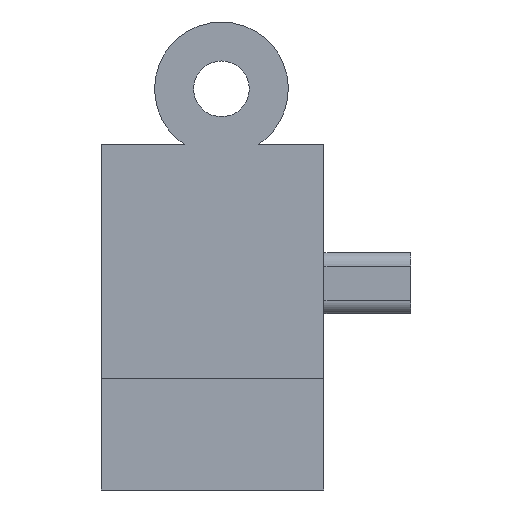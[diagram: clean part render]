
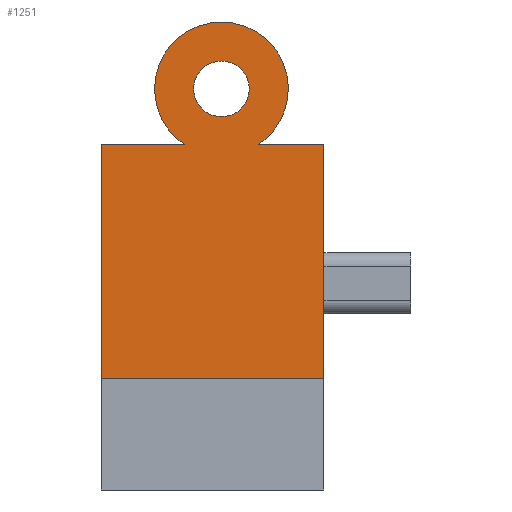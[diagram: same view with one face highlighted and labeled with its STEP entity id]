
A CAD part, left-side view. The second image highlights one B-rep face of the part: STEP entity #1251.
In plain terms, the highlighted planar face has unit normal (-1, 0, 0).
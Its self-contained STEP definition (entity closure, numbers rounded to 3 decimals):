
#143 = VERTEX_POINT('',#144);
#144 = CARTESIAN_POINT('',(-36.,137.8,279.));
#150 = EDGE_CURVE('',#151,#143,#153,.T.);
#151 = VERTEX_POINT('',#152);
#152 = CARTESIAN_POINT('',(-36.,137.8,258.));
#153 = LINE('',#154,#155);
#154 = CARTESIAN_POINT('',(-36.,137.8,248.));
#155 = VECTOR('',#156,1.);
#156 = DIRECTION('',(0.,0.,1.));
#382 = EDGE_CURVE('',#143,#383,#385,.T.);
#383 = VERTEX_POINT('',#384);
#384 = CARTESIAN_POINT('',(-36.,143.683,279.));
#385 = LINE('',#386,#387);
#386 = CARTESIAN_POINT('',(-36.,137.8,279.));
#387 = VECTOR('',#388,1.);
#388 = DIRECTION('',(-0.,1.,0.));
#445 = VERTEX_POINT('',#446);
#446 = CARTESIAN_POINT('',(-36.,157.8,258.));
#454 = EDGE_CURVE('',#151,#445,#455,.T.);
#455 = LINE('',#456,#457);
#456 = CARTESIAN_POINT('',(-36.,137.8,258.));
#457 = VECTOR('',#458,1.);
#458 = DIRECTION('',(-0.,1.,0.));
#1120 = EDGE_CURVE('',#445,#1121,#1123,.T.);
#1121 = VERTEX_POINT('',#1122);
#1122 = CARTESIAN_POINT('',(-36.,157.8,279.));
#1123 = LINE('',#1124,#1125);
#1124 = CARTESIAN_POINT('',(-36.,157.8,248.));
#1125 = VECTOR('',#1126,1.);
#1126 = DIRECTION('',(0.,0.,1.));
#1181 = EDGE_CURVE('',#1182,#1121,#1184,.T.);
#1182 = VERTEX_POINT('',#1183);
#1183 = CARTESIAN_POINT('',(-36.,150.317,279.));
#1184 = LINE('',#1185,#1186);
#1185 = CARTESIAN_POINT('',(-36.,137.8,279.));
#1186 = VECTOR('',#1187,1.);
#1187 = DIRECTION('',(-0.,1.,0.));
#1251 = ADVANCED_FACE('',(#1252,#1275),#1286,.T.);
#1252 = FACE_BOUND('',#1253,.T.);
#1253 = EDGE_LOOP('',(#1254,#1255,#1256,#1265,#1272,#1273,#1274));
#1254 = ORIENTED_EDGE('',*,*,#150,.T.);
#1255 = ORIENTED_EDGE('',*,*,#382,.T.);
#1256 = ORIENTED_EDGE('',*,*,#1257,.F.);
#1257 = EDGE_CURVE('',#1258,#383,#1260,.T.);
#1258 = VERTEX_POINT('',#1259);
#1259 = CARTESIAN_POINT('',(-36.,147.,290.));
#1260 = CIRCLE('',#1261,6.);
#1261 = AXIS2_PLACEMENT_3D('',#1262,#1263,#1264);
#1262 = CARTESIAN_POINT('',(-36.,147.,284.));
#1263 = DIRECTION('',(1.,0.,0.));
#1264 = DIRECTION('',(-0.,0.,1.));
#1265 = ORIENTED_EDGE('',*,*,#1266,.F.);
#1266 = EDGE_CURVE('',#1182,#1258,#1267,.T.);
#1267 = CIRCLE('',#1268,6.);
#1268 = AXIS2_PLACEMENT_3D('',#1269,#1270,#1271);
#1269 = CARTESIAN_POINT('',(-36.,147.,284.));
#1270 = DIRECTION('',(1.,0.,0.));
#1271 = DIRECTION('',(-0.,0.,1.));
#1272 = ORIENTED_EDGE('',*,*,#1181,.T.);
#1273 = ORIENTED_EDGE('',*,*,#1120,.F.);
#1274 = ORIENTED_EDGE('',*,*,#454,.F.);
#1275 = FACE_BOUND('',#1276,.T.);
#1276 = EDGE_LOOP('',(#1277));
#1277 = ORIENTED_EDGE('',*,*,#1278,.T.);
#1278 = EDGE_CURVE('',#1279,#1279,#1281,.T.);
#1279 = VERTEX_POINT('',#1280);
#1280 = CARTESIAN_POINT('',(-36.,147.,286.5));
#1281 = CIRCLE('',#1282,2.5);
#1282 = AXIS2_PLACEMENT_3D('',#1283,#1284,#1285);
#1283 = CARTESIAN_POINT('',(-36.,147.,284.));
#1284 = DIRECTION('',(1.,0.,0.));
#1285 = DIRECTION('',(-0.,0.,1.));
#1286 = PLANE('',#1287);
#1287 = AXIS2_PLACEMENT_3D('',#1288,#1289,#1290);
#1288 = CARTESIAN_POINT('',(-36.,147.624,272.569));
#1289 = DIRECTION('',(-1.,-0.,-0.));
#1290 = DIRECTION('',(0.,0.,-1.));
